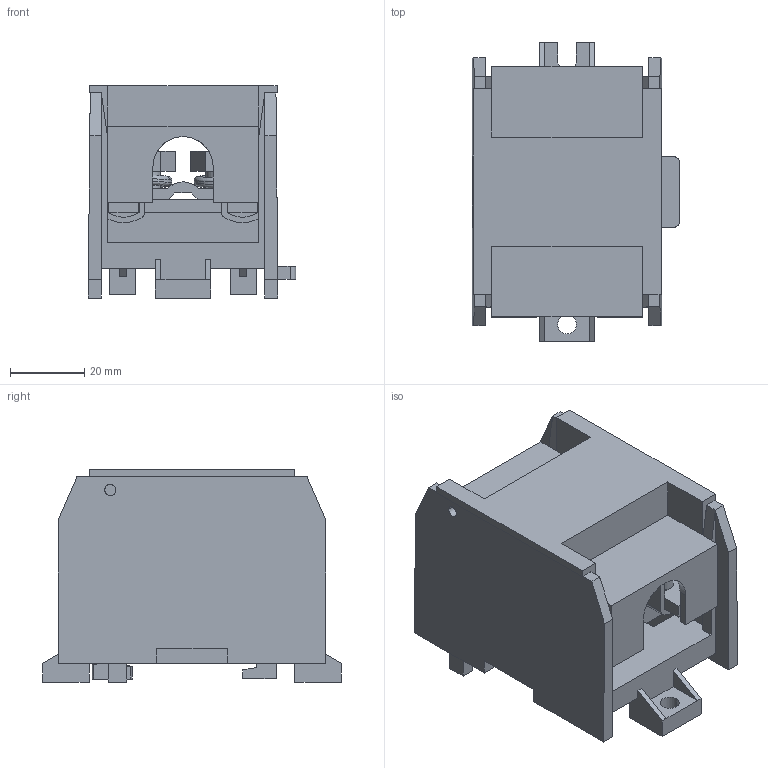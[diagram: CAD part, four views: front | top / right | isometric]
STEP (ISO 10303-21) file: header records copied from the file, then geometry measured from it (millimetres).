
FILE_DESCRIPTION (( 'STEP AP203' ), '1' );
FILE_NAME ('RBP-95-100 Áëîê ïðîõîäíîé ÐÁÏ 95 (1õ95-4õ16 ìì2) 232-100À.STEP', '2017-02-14T14:19:47', ( 'kuryshev' ), ( '' ), 'SwSTEP 2.0', 'SolidWorks 2010', '' );
FILE_SCHEMA (( 'CONFIG_CONTROL_DESIGN' ));
Length unit declared in the file: millimetre
Products named in the file (1): RBP-95-100 Áëîê ïðîõîäíîé ÐÁÏ 95 (1õ95-4õ16 ìì2) 232-100À
Bounding box: 55.8 x 80.4 x 57.3 mm (x, y, z)
Volume: 66287.4 mm3; surface area: 55144.8 mm2
Topology: 18 solids, 18 shells, 589 faces, 1584 edges, 1036 vertices
Faces by surface type: plane 390, cylinder 143, torus 20, bspline 18, cone 18
Entity records: 21218 total; most frequent: CARTESIAN_POINT 6273, ORIENTED_EDGE 3168, DIRECTION 2986, EDGE_CURVE 1584, LINE 1142, VECTOR 1142, VERTEX_POINT 1036, AXIS2_PLACEMENT_3D 922
